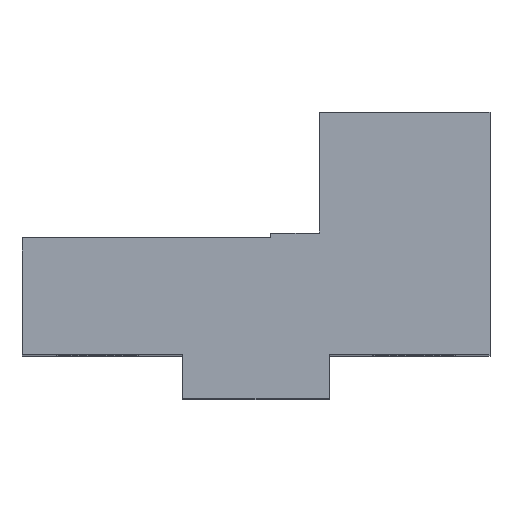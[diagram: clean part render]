
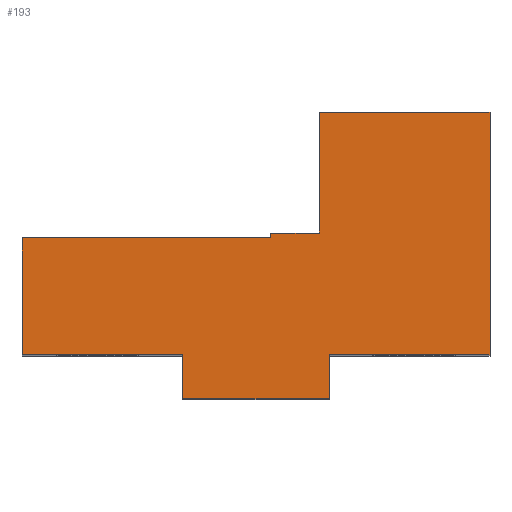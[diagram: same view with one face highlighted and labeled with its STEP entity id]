
A CAD part, top view. The second image highlights one B-rep face of the part: STEP entity #193.
In plain terms, the highlighted planar face has unit normal (0, 0, 1).
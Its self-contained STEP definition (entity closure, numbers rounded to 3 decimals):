
#149 = ORIENTED_EDGE ( 'NONE', *, *, #270, .T. ) ;
#150 = ORIENTED_EDGE ( 'NONE', *, *, #286, .T. ) ;
#151 = ORIENTED_EDGE ( 'NONE', *, *, #315, .T. ) ;
#152 = ORIENTED_EDGE ( 'NONE', *, *, #327, .T. ) ;
#153 = ORIENTED_EDGE ( 'NONE', *, *, #340, .T. ) ;
#154 = ORIENTED_EDGE ( 'NONE', *, *, #360, .T. ) ;
#155 = ORIENTED_EDGE ( 'NONE', *, *, #191, .T. ) ;
#191 = EDGE_CURVE ( 'NONE', #358, #399, #428, .T. ) ;
#193 = ADVANCED_FACE ( 'NONE', ( #424 ), #423, .T. ) ;
#194 = EDGE_LOOP ( 'NONE', ( #195, #196, #197, #198, #199, #149, #150, #151, #152, #153, #154, #155 ) ) ;
#195 = ORIENTED_EDGE ( 'NONE', *, *, #398, .T. ) ;
#196 = ORIENTED_EDGE ( 'NONE', *, *, #386, .T. ) ;
#197 = ORIENTED_EDGE ( 'NONE', *, *, #351, .T. ) ;
#198 = ORIENTED_EDGE ( 'NONE', *, *, #283, .T. ) ;
#199 = ORIENTED_EDGE ( 'NONE', *, *, #375, .T. ) ;
#204 = VERTEX_POINT ( 'NONE', #565 ) ;
#205 = VERTEX_POINT ( 'NONE', #564 ) ;
#270 = EDGE_CURVE ( 'NONE', #205, #338, #463, .T. ) ;
#281 = VERTEX_POINT ( 'NONE', #591 ) ;
#283 = EDGE_CURVE ( 'NONE', #204, #281, #590, .T. ) ;
#284 = VERTEX_POINT ( 'NONE', #586 ) ;
#286 = EDGE_CURVE ( 'NONE', #338, #284, #585, .T. ) ;
#313 = VERTEX_POINT ( 'NONE', #744 ) ;
#315 = EDGE_CURVE ( 'NONE', #284, #313, #743, .T. ) ;
#325 = VERTEX_POINT ( 'NONE', #689 ) ;
#327 = EDGE_CURVE ( 'NONE', #313, #325, #688, .T. ) ;
#336 = VERTEX_POINT ( 'NONE', #669 ) ;
#338 = VERTEX_POINT ( 'NONE', #668 ) ;
#340 = EDGE_CURVE ( 'NONE', #325, #336, #730, .T. ) ;
#351 = EDGE_CURVE ( 'NONE', #406, #204, #707, .T. ) ;
#358 = VERTEX_POINT ( 'NONE', #830 ) ;
#360 = EDGE_CURVE ( 'NONE', #336, #358, #829, .T. ) ;
#375 = EDGE_CURVE ( 'NONE', #281, #205, #800, .T. ) ;
#386 = EDGE_CURVE ( 'NONE', #396, #406, #784, .T. ) ;
#396 = VERTEX_POINT ( 'NONE', #845 ) ;
#398 = EDGE_CURVE ( 'NONE', #399, #396, #844, .T. ) ;
#399 = VERTEX_POINT ( 'NONE', #840 ) ;
#406 = VERTEX_POINT ( 'NONE', #989 ) ;
#420 = DIRECTION ( 'NONE',  ( 0., 0., 1. ) ) ;
#421 = AXIS2_PLACEMENT_3D ( 'NONE', #422, #420, #572 ) ;
#422 = CARTESIAN_POINT ( 'NONE',  ( -48., 0., 80.2 ) ) ;
#423 = PLANE ( 'NONE',  #421 ) ;
#424 = FACE_OUTER_BOUND ( 'NONE', #194, .T. ) ;
#425 = DIRECTION ( 'NONE',  ( -1., 0., 0. ) ) ;
#426 = VECTOR ( 'NONE', #425, 1000. ) ;
#427 = CARTESIAN_POINT ( 'NONE',  ( -48., 32.95, 80.2 ) ) ;
#428 = LINE ( 'NONE', #427, #426 ) ;
#460 = DIRECTION ( 'NONE',  ( 1., 0., 0. ) ) ;
#461 = VECTOR ( 'NONE', #460, 1000. ) ;
#462 = CARTESIAN_POINT ( 'NONE',  ( 15., 8.95, 80.2 ) ) ;
#463 = LINE ( 'NONE', #462, #461 ) ;
#564 = CARTESIAN_POINT ( 'NONE',  ( 15., 8.95, 80.2 ) ) ;
#565 = CARTESIAN_POINT ( 'NONE',  ( -15., 0., 80.2 ) ) ;
#572 = DIRECTION ( 'NONE',  ( 1., 0., 0. ) ) ;
#582 = DIRECTION ( 'NONE',  ( 0., 1., 0. ) ) ;
#583 = VECTOR ( 'NONE', #582, 1000. ) ;
#584 = CARTESIAN_POINT ( 'NONE',  ( 48., 8.95, 80.2 ) ) ;
#585 = LINE ( 'NONE', #584, #583 ) ;
#586 = CARTESIAN_POINT ( 'NONE',  ( 48., 58.75, 80.2 ) ) ;
#587 = DIRECTION ( 'NONE',  ( 1., 0., 0. ) ) ;
#588 = VECTOR ( 'NONE', #587, 1000. ) ;
#589 = CARTESIAN_POINT ( 'NONE',  ( -15., 0., 80.2 ) ) ;
#590 = LINE ( 'NONE', #589, #588 ) ;
#591 = CARTESIAN_POINT ( 'NONE',  ( 15., 0., 80.2 ) ) ;
#668 = CARTESIAN_POINT ( 'NONE',  ( 48., 8.95, 80.2 ) ) ;
#669 = CARTESIAN_POINT ( 'NONE',  ( 3., 33.95, 80.2 ) ) ;
#685 = DIRECTION ( 'NONE',  ( 0., -1., 0. ) ) ;
#686 = VECTOR ( 'NONE', #685, 1000. ) ;
#687 = CARTESIAN_POINT ( 'NONE',  ( 13., 58.75, 80.2 ) ) ;
#688 = LINE ( 'NONE', #687, #686 ) ;
#689 = CARTESIAN_POINT ( 'NONE',  ( 13., 33.95, 80.2 ) ) ;
#704 = DIRECTION ( 'NONE',  ( 0., -1., 0. ) ) ;
#705 = VECTOR ( 'NONE', #704, 1000. ) ;
#706 = CARTESIAN_POINT ( 'NONE',  ( -15., 8.95, 80.2 ) ) ;
#707 = LINE ( 'NONE', #706, #705 ) ;
#727 = DIRECTION ( 'NONE',  ( -1., 0., 0. ) ) ;
#728 = VECTOR ( 'NONE', #727, 1000. ) ;
#729 = CARTESIAN_POINT ( 'NONE',  ( 13., 33.95, 80.2 ) ) ;
#730 = LINE ( 'NONE', #729, #728 ) ;
#740 = DIRECTION ( 'NONE',  ( -1., 0., 0. ) ) ;
#741 = VECTOR ( 'NONE', #740, 1000. ) ;
#742 = CARTESIAN_POINT ( 'NONE',  ( 48., 58.75, 80.2 ) ) ;
#743 = LINE ( 'NONE', #742, #741 ) ;
#744 = CARTESIAN_POINT ( 'NONE',  ( 13., 58.75, 80.2 ) ) ;
#781 = DIRECTION ( 'NONE',  ( 1., 0., 0. ) ) ;
#782 = VECTOR ( 'NONE', #781, 1000. ) ;
#783 = CARTESIAN_POINT ( 'NONE',  ( -48., 8.95, 80.2 ) ) ;
#784 = LINE ( 'NONE', #783, #782 ) ;
#797 = DIRECTION ( 'NONE',  ( 0., 1., 0. ) ) ;
#798 = VECTOR ( 'NONE', #797, 1000. ) ;
#799 = CARTESIAN_POINT ( 'NONE',  ( 15., 0., 80.2 ) ) ;
#800 = LINE ( 'NONE', #799, #798 ) ;
#826 = DIRECTION ( 'NONE',  ( 0., -1., 0. ) ) ;
#827 = VECTOR ( 'NONE', #826, 1000. ) ;
#828 = CARTESIAN_POINT ( 'NONE',  ( 3., 32.95, 80.2 ) ) ;
#829 = LINE ( 'NONE', #828, #827 ) ;
#830 = CARTESIAN_POINT ( 'NONE',  ( 3., 32.95, 80.2 ) ) ;
#840 = CARTESIAN_POINT ( 'NONE',  ( -48., 32.95, 80.2 ) ) ;
#841 = DIRECTION ( 'NONE',  ( 0., -1., 0. ) ) ;
#842 = VECTOR ( 'NONE', #841, 1000. ) ;
#843 = CARTESIAN_POINT ( 'NONE',  ( -48., 32.95, 80.2 ) ) ;
#844 = LINE ( 'NONE', #843, #842 ) ;
#845 = CARTESIAN_POINT ( 'NONE',  ( -48., 8.95, 80.2 ) ) ;
#989 = CARTESIAN_POINT ( 'NONE',  ( -15., 8.95, 80.2 ) ) ;
